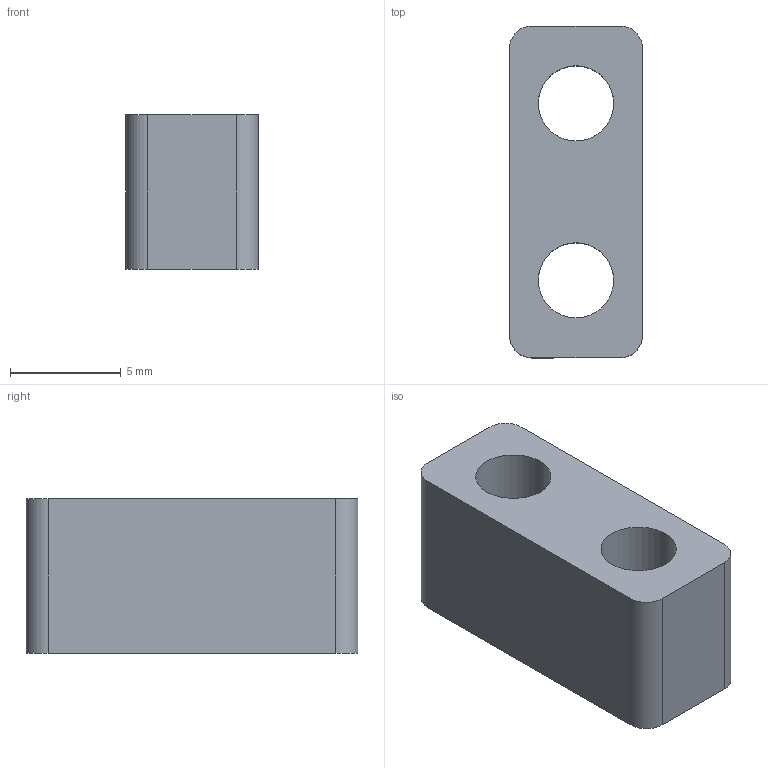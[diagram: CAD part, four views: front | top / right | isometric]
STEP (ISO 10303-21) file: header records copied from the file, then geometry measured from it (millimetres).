
FILE_DESCRIPTION (( 'STEP AP214' ), '1' );
FILE_NAME ('垫块8.STEP', '2026-09-28T07:58:07', ( '微软用户' ), ( '微软中国' ), 'SwSTEP 2.0', 'SolidWorks 2016', '' );
FILE_SCHEMA (( 'AUTOMOTIVE_DESIGN' ));
Length unit declared in the file: millimetre
Products named in the file (1): 菜輸8
Bounding box: 6 x 15 x 7 mm (x, y, z)
Volume: 472.3 mm3; surface area: 612.8 mm2
Topology: 1 solids, 1 shells, 17 faces, 42 edges, 28 vertices
Faces by surface type: cylinder 10, plane 7
Entity records: 580 total; most frequent: DIRECTION 98, CARTESIAN_POINT 88, ORIENTED_EDGE 84, EDGE_CURVE 42, AXIS2_PLACEMENT_3D 38, VERTEX_POINT 28, EDGE_LOOP 22, LINE 22
